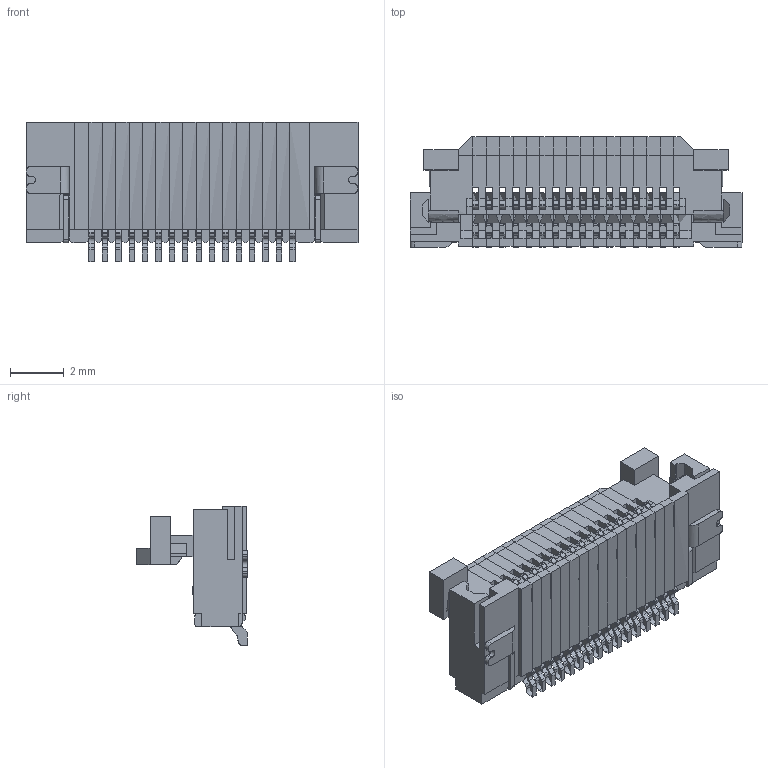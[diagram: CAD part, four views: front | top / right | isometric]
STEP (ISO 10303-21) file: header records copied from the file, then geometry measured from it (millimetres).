
FILE_DESCRIPTION (( 'STEP AP203' ), '1' );
FILE_NAME ('GT-F0502SR20-XXSMT01.STEP', '2023-12-26T09:28:20', ( 'Microsoft' ), ( 'Microsoft' ), 'SwSTEP 2.0', 'SolidWorks 2023', '' );
FILE_SCHEMA (( 'CONFIG_CONTROL_DESIGN' ));
Products named in the file (1): GT-F0502SR20-XXSMT01
Bounding box: 12.4 x 4.13 x 5.2 mm (x, y, z)
Surface area: 641.1 mm2 (no closed solid volume)
Topology: 0 solids, 62 shells, 2482 faces, 7091 edges, 4574 vertices
Faces by surface type: bspline 2297, plane 185
Entity records: 79007 total; most frequent: CARTESIAN_POINT 36862, ORIENTED_EDGE 12930, EDGE_CURVE 7001, B_SPLINE_CURVE_WITH_KNOTS 5944, VERTEX_POINT 4394, EDGE_LOOP 2519, ADVANCED_FACE 2497, FACE_OUTER_BOUND 2467
